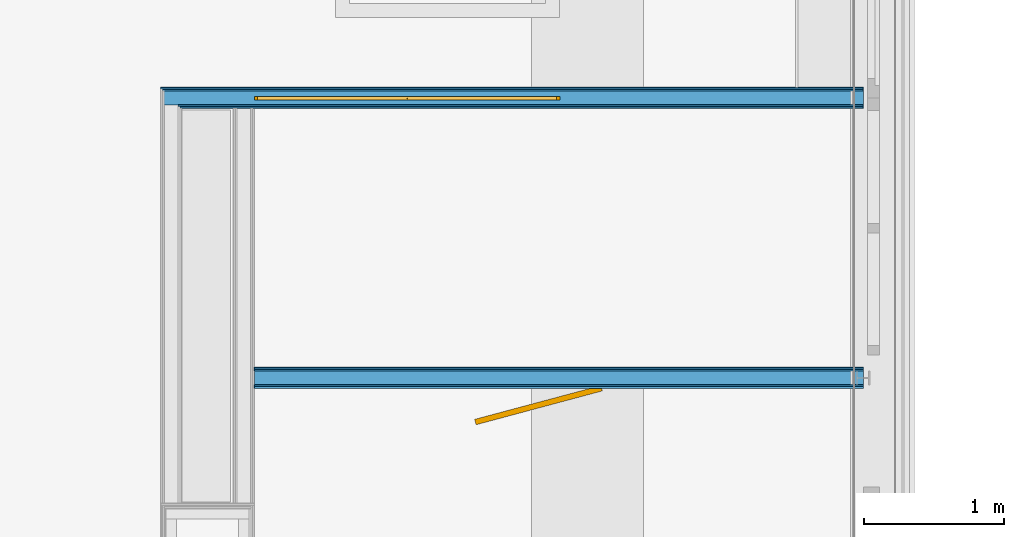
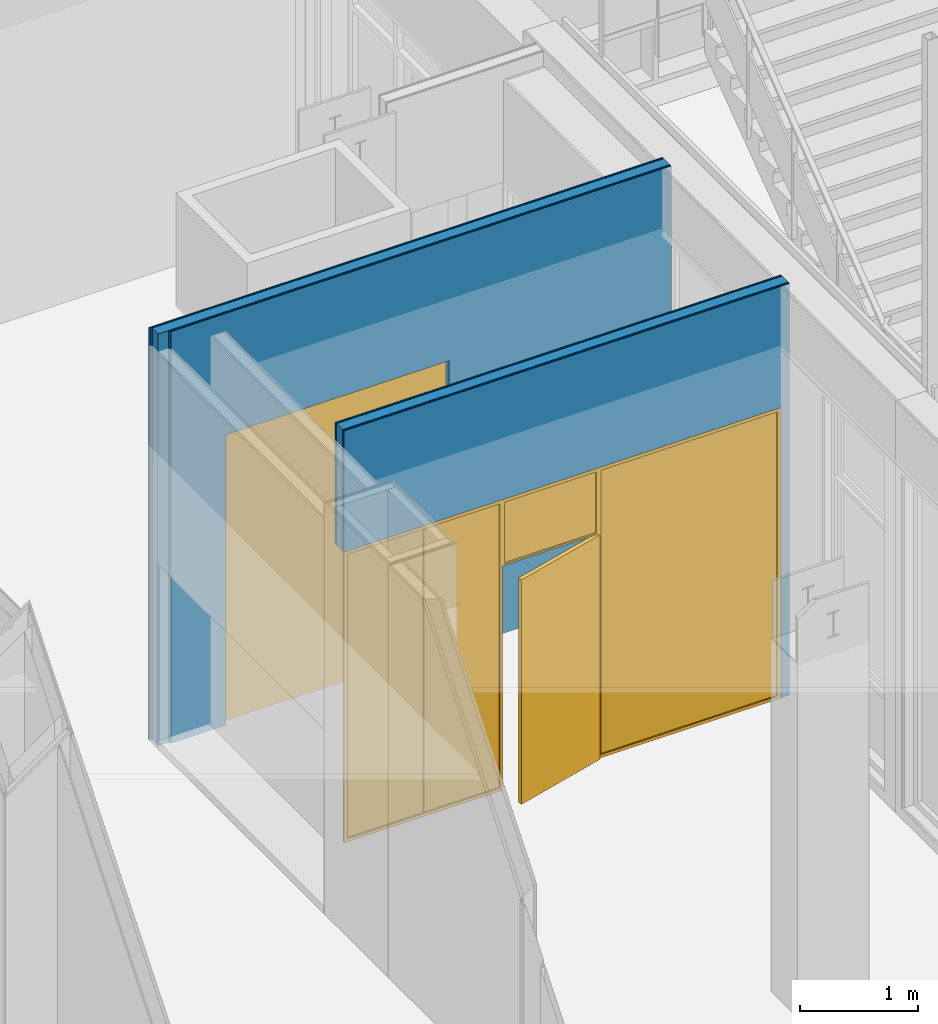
# One storey, part 71 of 94: 10 building element parts, 1 door, 1 window, 2 openings, 2 elements without a shape of their own.
"""IFC2X3 building model written with IfcOpenShell, lengths in millimetres."""

from ifc_helpers import new_model, entity, si_unit, converted_unit, derived_unit, money_unit, direction, frame, origin_with_axes, place, context, subcontext, project, spatial, open_shell, faceted_brep, surface_model, material, type_object, element, fill, aggregate, save


model = new_model("IFC2X3")

# Units and contexts
model_context = context("Model", 3, precision=0.01, world=origin_with_axes(), true_north=direction((0.0, 1.0)))
body_context = subcontext(model_context, "Body", "Model", "MODEL_VIEW")
ifc_project = project(units=[si_unit("LENGTHUNIT", "METRE", prefix="MILLI"), si_unit("AREAUNIT", "SQUARE_METRE"), si_unit("VOLUMEUNIT", "CUBIC_METRE"), converted_unit("PLANEANGLEUNIT", "DEGREE", entity("IfcPlaneAngleMeasure", 0.0174532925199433), si_unit("PLANEANGLEUNIT", "RADIAN"), dimensions=[0, 0, 0, 0, 0, 0, 0]), money_unit("EUR"), converted_unit("TIMEUNIT", "Year", entity("IfcTimeMeasure", 31557600.0), si_unit("TIMEUNIT", "SECOND"), dimensions=[0, 0, 1, 0, 0, 0, 0]), si_unit("MASSUNIT", "GRAM", prefix="KILO"), si_unit("THERMODYNAMICTEMPERATUREUNIT", "DEGREE_CELSIUS"), si_unit("LUMINOUSINTENSITYUNIT", "LUMEN"), si_unit("ENERGYUNIT", "JOULE", prefix="MEGA"), derived_unit("THERMALCONDUCTANCEUNIT", [(si_unit("POWERUNIT", "WATT"), 1), (si_unit("LENGTHUNIT", "METRE"), -1), (si_unit("THERMODYNAMICTEMPERATUREUNIT", "KELVIN"), -1)]), derived_unit("SPECIFICHEATCAPACITYUNIT", [(si_unit("ENERGYUNIT", "JOULE"), 1), (si_unit("MASSUNIT", "GRAM", prefix="KILO"), -1), (si_unit("THERMODYNAMICTEMPERATUREUNIT", "KELVIN"), -1)]), derived_unit("MASSDENSITYUNIT", [(si_unit("MASSUNIT", "GRAM", prefix="KILO"), 1), (si_unit("VOLUMEUNIT", "CUBIC_METRE"), -1)])], contexts=[model_context])

# Site, building, storey
site_placement = place(None, origin_with_axes())
site = spatial("IfcSite", under=ifc_project, at=site_placement, Name="<site naam>", CompositionType="ELEMENT")
building_placement = place(site_placement, origin_with_axes())
building = spatial("IfcBuilding", under=site, at=building_placement, Name="<Naam gebouw>", CompositionType="ELEMENT")
storey_placement = place(building_placement, frame((0.0, 0.0, 4250.0), z_axis=(0.0, 0.0, 1.0), x_axis=(1.0, 0.0, 0.0)))
storey = spatial("IfcBuildingStorey", under=building, at=storey_placement, Name="01 1e verdieping", CompositionType="ELEMENT", Elevation=4250.0)

# Door
door_style = type_object("IfcDoorStyle", Name="D1 bl zl2 27", ConstructionType="NOTDEFINED", OperationType="USERDEFINED", ParameterTakesPrecedence=False, Sizeable=False)
wall_2_placement = place(storey_placement, frame((-529.9999999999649, 4000.000000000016, 0.0), z_axis=(0.0, 0.0, 1.0), x_axis=(1.0, 0.0, 0.0)))
opening_2_placement = place(wall_2_placement, frame((2282.022219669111, 0.0, 0.0), z_axis=(0.0, 0.0, 1.0), x_axis=(1.0, 0.0, 0.0)))
door_placement = place(opening_2_placement, frame((2132.022219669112, 0.0, 0.0), z_axis=(0.0, 0.0, 1.0), x_axis=(-1.0, 0.0, 0.0)))
door = element("IfcDoor", 1, at=door_placement, inside=storey, type_object=door_style, Name="22_BI-F-19_305", ObjectType="DOOR", OverallHeight=3000.0, OverallWidth=4264.04, context=body_context, shape_type="SurfaceModel", body=[
    faceted_brep([(4264.044439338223, 74.99999999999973, 0.0), (4264.044439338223, 54.99999999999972, 0.0), (4231.044439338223, 54.99999999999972, 0.0), (4231.044439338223, 74.99999999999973, 0.0), (4264.044439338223, 74.99999999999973, 2967.0), (4264.044439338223, 54.99999999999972, 2967.0), (4231.044439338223, 54.99999999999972, 2967.0), (4231.044439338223, 54.99999999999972, 33.00000000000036), (4231.044439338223, 74.99999999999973, 33.00000000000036), (4231.044439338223, 74.99999999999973, 2967.0)], [[[0, 1, 2, 3]], [[4, 5, 1, 0]], [[1, 5, 6, 7, 2]], [[3, 2, 7, 8]], [[0, 3, 8, 9, 4]], [[9, 6, 5, 4]], [[8, 7, 6, 9]]]),
    faceted_brep([(2716.999999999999, 55.00000000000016, 0.0), (2741.999999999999, 55.00000000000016, 0.0), (2741.999999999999, 55.00000000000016, 32.99999999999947), (2741.999999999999, 54.99999999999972, 2967.0), (2699.999999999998, 54.99999999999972, 2967.0), (2699.999999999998, 55.00000000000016, 2333.0), (2699.999999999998, 55.00000000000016, 2317.0), (2716.999999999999, 55.00000000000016, 2317.0), (2716.999999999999, 75.00000000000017, 0.0), (2741.999999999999, 75.00000000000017, 0.0), (2741.999999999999, 75.00000000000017, 32.99999999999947), (2741.999999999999, 74.99999999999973, 2967.0), (2699.999999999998, 74.99999999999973, 2967.0), (2699.999999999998, 75.00000000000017, 2333.0), (2699.999999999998, 75.00000000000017, 2317.0), (2716.999999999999, 75.00000000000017, 2317.0)], [[[0, 1, 2, 3, 4, 5, 6, 7]], [[8, 9, 1, 0]], [[9, 10, 2, 1]], [[10, 11, 3, 2]], [[11, 12, 4, 3]], [[12, 13, 5, 4]], [[6, 5, 13, 14]], [[14, 15, 7, 6]], [[7, 15, 8, 0]], [[15, 14, 13, 12, 11, 10, 9, 8]]]),
    faceted_brep([(4231.044439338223, 74.99999999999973, 33.00000000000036), (4231.044439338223, 54.99999999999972, 33.00000000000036), (4231.044439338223, 54.99999999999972, 0.0), (4231.044439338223, 74.99999999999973, 0.0), (2741.999999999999, 75.00000000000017, 33.00000000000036), (2741.999999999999, 55.00000000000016, 33.00000000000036), (2741.999999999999, 55.00000000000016, 0.0), (2741.999999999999, 75.00000000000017, 0.0)], [[[0, 1, 2, 3]], [[4, 5, 1, 0]], [[1, 5, 6, 2]], [[3, 2, 6, 7]], [[0, 3, 7, 4]], [[7, 6, 5, 4]]]),
    faceted_brep([(0.0, 75.00000000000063, 0.0), (0.0, 55.0000000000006, 0.0), (0.0, 55.00000000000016, 2967.0), (0.0, 75.00000000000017, 2967.0), (32.99999999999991, 75.00000000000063, 0.0), (32.99999999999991, 55.0000000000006, 0.0), (32.99999999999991, 55.0000000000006, 33.00000000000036), (32.99999999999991, 55.00000000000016, 2967.0), (32.99999999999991, 75.00000000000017, 2967.0), (32.99999999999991, 75.00000000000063, 33.00000000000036)], [[[0, 1, 2, 3]], [[4, 5, 1, 0]], [[1, 5, 6, 7, 2]], [[3, 2, 7, 8]], [[0, 3, 8, 9, 4]], [[9, 6, 5, 4]], [[8, 7, 6, 9]]]),
    faceted_brep([(1783.0, 55.00000000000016, 2317.0), (1800.0, 55.00000000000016, 2317.0), (1800.0, 55.00000000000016, 2333.0), (1800.0, 55.00000000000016, 2967.0), (1758.0, 55.00000000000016, 2967.0), (1758.0, 55.00000000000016, 32.99999999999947), (1758.0, 55.00000000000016, 0.0), (1783.0, 55.00000000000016, 0.0), (1783.0, 75.00000000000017, 2317.0), (1800.0, 75.00000000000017, 2317.0), (1800.0, 75.00000000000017, 2333.0), (1800.0, 75.00000000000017, 2967.0), (1758.0, 75.00000000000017, 2967.0), (1758.0, 75.00000000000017, 32.99999999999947), (1758.0, 75.00000000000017, 0.0), (1783.0, 75.00000000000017, 0.0)], [[[0, 1, 2, 3, 4, 5, 6, 7]], [[0, 8, 9, 1]], [[9, 10, 2, 1]], [[10, 11, 3, 2]], [[11, 12, 4, 3]], [[12, 13, 5, 4]], [[13, 14, 6, 5]], [[7, 6, 14, 15]], [[7, 15, 8, 0]], [[8, 15, 14, 13, 12, 11, 10, 9]]]),
    faceted_brep([(1758.0, 75.00000000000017, 33.00000000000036), (1758.0, 55.00000000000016, 33.00000000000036), (1758.0, 55.00000000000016, 0.0), (1758.0, 75.00000000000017, 0.0), (32.99999999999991, 75.00000000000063, 33.00000000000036), (32.99999999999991, 55.0000000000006, 33.00000000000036), (32.99999999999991, 55.0000000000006, 0.0), (32.99999999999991, 75.00000000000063, 0.0)], [[[0, 1, 2, 3]], [[4, 5, 1, 0]], [[1, 5, 6, 2]], [[3, 2, 6, 7]], [[0, 3, 7, 4]], [[7, 6, 5, 4]]]),
    faceted_brep([(4264.044439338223, 74.99999999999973, 3000.0), (4264.044439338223, 54.99999999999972, 3000.0), (4264.044439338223, 54.99999999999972, 2967.0), (4264.044439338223, 74.99999999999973, 2967.0), (0.0, 75.00000000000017, 3000.0), (0.0, 55.00000000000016, 3000.0), (0.0, 55.00000000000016, 2967.0), (32.99999999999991, 55.00000000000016, 2967.0), (1758.0, 55.00000000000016, 2967.0), (1800.0, 55.00000000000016, 2967.0), (2699.999999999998, 54.99999999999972, 2967.0), (2741.999999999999, 54.99999999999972, 2967.0), (4231.044439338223, 54.99999999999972, 2967.0), (4231.044439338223, 74.99999999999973, 2967.0), (2741.999999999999, 74.99999999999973, 2967.0), (2699.999999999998, 74.99999999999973, 2967.0), (1800.0, 75.00000000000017, 2967.0), (1758.0, 75.00000000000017, 2967.0), (32.99999999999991, 75.00000000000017, 2967.0), (0.0, 75.00000000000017, 2967.0)], [[[0, 1, 2, 3]], [[4, 5, 1, 0]], [[1, 5, 6, 7, 8, 9, 10, 11, 12, 2]], [[3, 2, 12, 13]], [[0, 3, 13, 14, 15, 16, 17, 18, 19, 4]], [[19, 6, 5, 4]], [[18, 7, 6, 19]], [[17, 8, 7, 18]], [[16, 9, 8, 17]], [[15, 10, 9, 16]], [[14, 11, 10, 15]], [[13, 12, 11, 14]]]),
    faceted_brep([(2699.999999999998, 55.00000000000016, 2317.0), (2699.999999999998, 55.00000000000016, 2333.0), (1800.0, 55.00000000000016, 2333.0), (1800.0, 55.00000000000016, 2317.0), (2699.999999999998, 75.00000000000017, 2317.0), (2699.999999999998, 75.00000000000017, 2333.0), (1800.0, 75.00000000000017, 2333.0), (1800.0, 75.00000000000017, 2317.0)], [[[0, 1, 2, 3]], [[4, 5, 1, 0]], [[5, 6, 2, 1]], [[3, 2, 6, 7]], [[7, 4, 0, 3]], [[7, 6, 5, 4]]]),
    faceted_brep([(1778.341257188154, 92.38666487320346, 0.0), (2680.515978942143, 334.1236529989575, 0.0), (2690.868740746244, 295.4866199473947, 0.0), (1788.694018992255, 53.74963182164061, 0.0), (1778.341257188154, 92.38666487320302, 2317.0), (2680.515978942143, 334.1236529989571, 2317.0), (2690.868740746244, 295.4866199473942, 2317.0), (1788.694018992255, 53.74963182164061, 2317.0)], [[[0, 1, 2, 3]], [[0, 4, 5, 1]], [[1, 5, 6, 2]], [[3, 2, 6, 7]], [[4, 0, 3, 7]], [[5, 4, 7, 6]]]),
    surface_model("IfcShellBasedSurfaceModel", [(2699.999999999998, 48.99999999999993, 2333.0), (2699.999999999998, 48.99999999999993, 2967.0), (1800.0, 48.99999999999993, 2967.0), (1800.0, 48.99999999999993, 2333.0)], [open_shell([[[0, 1, 2, 3]]])]),
    surface_model("IfcShellBasedSurfaceModel", [(2699.999999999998, 60.99999999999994, 2333.0), (1800.0, 60.99999999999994, 2333.0), (1800.0, 60.99999999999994, 2967.0), (2699.999999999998, 60.99999999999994, 2967.0)], [open_shell([[[0, 1, 2, 3]]])]),
    surface_model("IfcShellBasedSurfaceModel", [(3489.022219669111, 48.99999999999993, 33.00000000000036), (4231.044439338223, 48.99999999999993, 33.00000000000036), (4231.044439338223, 48.99999999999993, 2967.0), (3489.022219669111, 48.99999999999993, 2967.0)], [open_shell([[[0, 1, 2, 3]]])]),
    surface_model("IfcShellBasedSurfaceModel", [(3489.022219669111, 60.99999999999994, 33.00000000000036), (3489.022219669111, 60.99999999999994, 2967.0), (4231.044439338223, 60.99999999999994, 2967.0), (4231.044439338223, 60.99999999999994, 33.00000000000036)], [open_shell([[[0, 1, 2, 3]]])]),
    surface_model("IfcShellBasedSurfaceModel", [(2741.999999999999, 48.99999999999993, 33.00000000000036), (3484.022219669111, 48.99999999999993, 33.00000000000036), (3484.022219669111, 48.99999999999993, 2967.0), (2741.999999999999, 48.99999999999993, 2967.0)], [open_shell([[[0, 1, 2, 3]]])]),
    surface_model("IfcShellBasedSurfaceModel", [(2741.999999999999, 60.99999999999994, 33.00000000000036), (2741.999999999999, 60.99999999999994, 2967.0), (3484.022219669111, 60.99999999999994, 2967.0), (3484.022219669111, 60.99999999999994, 33.00000000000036)], [open_shell([[[0, 1, 2, 3]]])]),
    faceted_brep([(3489.022219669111, 69.99999999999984, 33.00000000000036), (3484.022219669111, 69.99999999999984, 33.00000000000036), (3484.022219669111, 75.00000000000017, 33.00000000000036), (3489.022219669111, 75.00000000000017, 33.00000000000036), (3489.022219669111, 69.99999999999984, 2967.0), (3484.022219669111, 69.99999999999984, 2967.0), (3484.022219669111, 74.99999999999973, 2967.0), (3489.022219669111, 74.99999999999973, 2967.0)], [[[0, 1, 2, 3]], [[0, 4, 5, 1]], [[1, 5, 6, 2]], [[3, 2, 6, 7]], [[4, 0, 3, 7]], [[5, 4, 7, 6]]]),
    surface_model("IfcShellBasedSurfaceModel", [(1758.0, 49.00000000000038, 33.00000000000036), (1758.0, 48.99999999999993, 2967.0), (33.00000000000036, 49.00000000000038, 2967.0), (33.00000000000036, 49.00000000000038, 33.00000000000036)], [open_shell([[[0, 1, 2, 3]]])]),
    surface_model("IfcShellBasedSurfaceModel", [(1758.0, 61.00000000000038, 33.00000000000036), (33.00000000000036, 61.00000000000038, 33.00000000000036), (33.00000000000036, 61.00000000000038, 2967.0), (1758.0, 60.99999999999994, 2967.0)], [open_shell([[[0, 1, 2, 3]]])]),
    faceted_brep([(897.9999999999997, 52.50000000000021, 33.00000000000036), (892.9999999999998, 52.50000000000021, 33.00000000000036), (892.9999999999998, 57.50000000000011, 33.00000000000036), (897.9999999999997, 57.50000000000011, 33.00000000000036), (897.9999999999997, 52.50000000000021, 2967.0), (892.9999999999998, 52.50000000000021, 2967.0), (892.9999999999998, 57.50000000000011, 2967.0), (897.9999999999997, 57.50000000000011, 2967.0)], [[[0, 1, 2, 3]], [[0, 4, 5, 1]], [[1, 5, 6, 2]], [[3, 2, 6, 7]], [[4, 0, 3, 7]], [[5, 4, 7, 6]]]),
])

# Window
window_style = type_object("IfcWindowStyle", Name="R1 27", ConstructionType="NOTDEFINED", OperationType="SINGLE_PANEL", ParameterTakesPrecedence=False, Sizeable=False)
wall_1_placement = place(storey_placement, frame((3970.044465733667, 6000.000000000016, 0.0), z_axis=(0.0, 0.0, 1.0), x_axis=(-1.0, 0.0, 0.0)))
opening_1_placement = place(wall_1_placement, frame((3258.486799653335, 0.0, 0.0), z_axis=(0.0, 0.0, 1.0), x_axis=(1.0, 0.0, 0.0)))
window_placement = place(opening_1_placement, frame((-1091.557666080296, 0.0, 0.0), z_axis=(0.0, 0.0, 1.0), x_axis=(1.0, 0.0, 0.0)))
window = element("IfcWindow", 2, at=window_placement, inside=storey, type_object=window_style, Name="22_BI-F-10_305", ObjectType="WINDOW", OverallHeight=3000.0, OverallWidth=2183.11, context=body_context, shape_type="SurfaceModel", body=[
    faceted_brep([(24.00000000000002, -9.999999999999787, 2976.0), (24.00000000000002, 14.00000000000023, 2976.0), (0.0, 14.00000000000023, 2976.0), (0.0, -9.999999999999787, 2976.0), (24.00000000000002, -9.999999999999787, 24.00000000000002), (24.00000000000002, 14.00000000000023, 24.00000000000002), (0.0, 14.00000000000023, 24.00000000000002), (0.0, -9.999999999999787, 24.00000000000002)], [[[0, 1, 2, 3]], [[4, 5, 1, 0]], [[1, 5, 6, 2]], [[3, 2, 6, 7]], [[0, 3, 7, 4]], [[7, 6, 5, 4]]]),
    faceted_brep([(2159.115332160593, -9.999999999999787, 24.00000000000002), (2159.115332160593, 14.00000000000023, 24.00000000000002), (2183.115332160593, 14.00000000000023, 24.00000000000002), (2183.115332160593, -9.999999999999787, 24.00000000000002), (2159.115332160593, -9.999999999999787, 2976.0), (2159.115332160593, 14.00000000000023, 2976.0), (2183.115332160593, 14.00000000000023, 2976.0), (2183.115332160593, -9.999999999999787, 2976.0)], [[[0, 1, 2, 3]], [[4, 5, 1, 0]], [[1, 5, 6, 2]], [[3, 2, 6, 7]], [[0, 3, 7, 4]], [[7, 6, 5, 4]]]),
    faceted_brep([(24.00000000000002, -9.999999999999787, 24.00000000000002), (24.00000000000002, 14.00000000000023, 24.00000000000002), (0.0, 14.00000000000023, 24.00000000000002), (0.0, -9.999999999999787, 24.00000000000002), (2159.115332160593, -9.999999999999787, 24.00000000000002), (2159.115332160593, 14.00000000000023, 24.00000000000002), (2183.115332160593, 14.00000000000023, 24.00000000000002), (2183.115332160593, 14.00000000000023, 0.0), (0.0, 14.00000000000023, 0.0), (0.0, -9.999999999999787, 0.0), (2183.115332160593, -9.999999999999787, 0.0), (2183.115332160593, -9.999999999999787, 24.00000000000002)], [[[0, 1, 2, 3]], [[4, 5, 1, 0]], [[1, 5, 6, 7, 8, 2]], [[3, 2, 8, 9]], [[0, 3, 9, 10, 11, 4]], [[11, 6, 5, 4]], [[10, 7, 6, 11]], [[9, 8, 7, 10]]]),
    faceted_brep([(2159.115332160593, -9.999999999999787, 2976.0), (2159.115332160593, 14.00000000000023, 2976.0), (2183.115332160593, 14.00000000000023, 2976.0), (2183.115332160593, -9.999999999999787, 2976.0), (24.00000000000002, -9.999999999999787, 2976.0), (24.00000000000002, 14.00000000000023, 2976.0), (0.0, 14.00000000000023, 2976.0), (0.0, 14.00000000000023, 3000.0), (2183.115332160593, 14.00000000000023, 3000.0), (2183.115332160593, -9.999999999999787, 3000.0), (0.0, -9.999999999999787, 3000.0), (0.0, -9.999999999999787, 2976.0)], [[[0, 1, 2, 3]], [[4, 5, 1, 0]], [[1, 5, 6, 7, 8, 2]], [[3, 2, 8, 9]], [[0, 3, 9, 10, 11, 4]], [[11, 6, 5, 4]], [[10, 7, 6, 11]], [[9, 8, 7, 10]]]),
    surface_model("IfcShellBasedSurfaceModel", [(24.00000000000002, -5.999999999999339, 24.00000000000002), (2159.115332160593, -6.000000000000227, 24.00000000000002), (2159.115332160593, -6.000000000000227, 2976.0), (24.00000000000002, -6.000000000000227, 2976.0)], [open_shell([[[0, 1, 2, 3]]])]),
    surface_model("IfcShellBasedSurfaceModel", [(24.00000000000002, 14.00000000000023, 24.00000000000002), (24.00000000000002, 14.00000000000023, 2976.0), (2159.115332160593, 14.00000000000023, 2976.0), (2159.115332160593, 14.00000000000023, 24.00000000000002)], [open_shell([[[0, 1, 2, 3]]])]),
    faceted_brep([(1089.057666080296, 1.500000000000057, 24.00000000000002), (1089.057666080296, 6.49999999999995, 24.00000000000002), (1094.057666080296, 6.49999999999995, 24.00000000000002), (1094.057666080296, 1.500000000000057, 24.00000000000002), (1089.057666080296, 1.500000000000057, 2976.0), (1089.057666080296, 6.49999999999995, 2976.0), (1094.057666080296, 6.49999999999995, 2976.0), (1094.057666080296, 1.500000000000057, 2976.0)], [[[0, 1, 2, 3]], [[4, 5, 1, 0]], [[1, 5, 6, 2]], [[3, 2, 6, 7]], [[0, 3, 7, 4]], [[7, 6, 5, 4]]]),
])

# Wall, opening
wall_type = type_object("IfcWallType", Name="MS-01 GF 150 ECO DGS/2.100.2.A 150", PredefinedType="NOTDEFINED")
wall_1 = element("IfcWall", 3, at=wall_1_placement, inside=storey, type_object=wall_type, Name="22_Binnenwand_MS-01")
opening_1 = element("IfcOpeningElement", 4, at=opening_1_placement, cuts=wall_1, Name="22_BI-F-10_305", context=body_context, shape_type="Brep", body=[
    faceted_brep([(1091.557666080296, -9.999999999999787, 0.0), (1091.557666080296, -9.999999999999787, 3000.0), (1091.557666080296, -76.00000000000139, 3000.0), (1091.557666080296, -76.00000000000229, 0.0), (1091.557666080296, 76.00000000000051, 0.0), (1091.557666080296, 76.00000000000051, 3000.0), (-1091.557666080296, -9.999999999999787, 3000.0), (-1091.557666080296, -76.00000000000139, 3000.0), (-1091.557666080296, 76.00000000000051, 3000.0), (-1091.557666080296, -76.00000000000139, 0.0), (-1091.557666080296, -9.999999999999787, 0.0), (-1091.557666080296, 76.00000000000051, 0.0)], [[[0, 1, 2, 3]], [[1, 0, 4, 5]], [[6, 7, 2, 1, 5, 8]], [[7, 9, 3, 2]], [[0, 3, 9, 10, 11, 4]], [[5, 4, 11, 8]], [[6, 10, 9, 7]], [[10, 6, 8, 11]]]),
])

fill(opening_1, window)

# Building element part
ifc_material_1 = material(Name="gipsplaat")
building_element_part_1_placement = place(wall_1_placement, origin_with_axes())
building_element_part_1 = element("IfcBuildingElementPart", 5, at=building_element_part_1_placement, material=ifc_material_1, Name="gipsplaat", context=body_context, shape_type="Brep", body=[
    faceted_brep([(4895.04446573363, 49.99999999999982, 0.0), (4895.04446573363, 49.99999999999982, 4250.0), (0.0, 50.00000000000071, 4250.0), (0.0, 49.99999999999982, 0.0), (4895.04446573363, 62.5, 4250.0), (4895.04446573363, 62.5, 0.0), (0.0, 62.5, 4250.0), (0.0, 62.5, 0.0)], [[[0, 1, 2, 3]], [[4, 1, 0, 5]], [[1, 4, 6, 2]], [[2, 6, 7, 3]], [[5, 0, 3, 7]], [[4, 5, 7, 6]]]),
])

ifc_material_2 = material(Name="isolatie_steenwol LSW")
building_element_part_2_placement = place(wall_1_placement, origin_with_axes())
building_element_part_2 = element("IfcBuildingElementPart", 6, at=building_element_part_2_placement, material=ifc_material_2, Name="isolatie_steenwol LSW", context=body_context, shape_type="Brep", body=[
    faceted_brep([(4995.044465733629, -50.00000000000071, 0.0), (4995.044465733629, -49.99999999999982, 4250.0), (0.0, -49.99999999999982, 4250.0), (0.0, -49.99999999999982, 0.0), (4995.044465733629, 49.99999999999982, 4250.0), (4995.044465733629, 49.99999999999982, 0.0), (0.0, 50.00000000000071, 4250.0), (0.0, 49.99999999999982, 0.0)], [[[0, 1, 2, 3]], [[4, 1, 0, 5]], [[1, 4, 6, 2]], [[2, 6, 7, 3]], [[5, 0, 3, 7]], [[4, 5, 7, 6]]]),
])

building_element_part_3_placement = place(wall_1_placement, origin_with_axes())
building_element_part_3 = element("IfcBuildingElementPart", 7, at=building_element_part_3_placement, material=ifc_material_1, Name="gipsplaat", context=body_context, shape_type="Brep", body=[
    faceted_brep([(4882.544465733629, 62.5, 0.0), (4882.544465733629, 62.5, 4250.0), (0.0, 62.5, 4250.0), (0.0, 62.5, 0.0), (4882.544465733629, 75.00000000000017, 4250.0), (4882.544465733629, 74.99999999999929, 0.0), (0.0, 75.00000000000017, 4250.0), (0.0, 75.00000000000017, 0.0)], [[[0, 1, 2, 3]], [[4, 1, 0, 5]], [[1, 4, 6, 2]], [[2, 6, 7, 3]], [[5, 0, 3, 7]], [[4, 5, 7, 6]]]),
])

building_element_part_4_placement = place(wall_1_placement, origin_with_axes())
building_element_part_4 = element("IfcBuildingElementPart", 8, at=building_element_part_4_placement, material=ifc_material_1, Name="gipsplaat", context=body_context, shape_type="Brep", body=[
    faceted_brep([(5007.544465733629, -62.5, 0.0), (5007.544465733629, -62.5, 4250.0), (0.0, -62.5, 4250.0), (0.0, -62.5, 0.0), (5007.544465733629, -49.99999999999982, 4250.0), (5007.544465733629, -50.00000000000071, 0.0), (0.0, -49.99999999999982, 4250.0), (0.0, -49.99999999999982, 0.0)], [[[0, 1, 2, 3]], [[4, 1, 0, 5]], [[1, 4, 6, 2]], [[2, 6, 7, 3]], [[5, 0, 3, 7]], [[4, 5, 7, 6]]]),
])

building_element_part_5_placement = place(wall_1_placement, origin_with_axes())
building_element_part_5 = element("IfcBuildingElementPart", 9, at=building_element_part_5_placement, material=ifc_material_1, Name="gipsplaat", context=body_context, shape_type="Brep", body=[
    faceted_brep([(5020.04446573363, -75.00000000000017, 0.0), (5020.04446573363, -75.00000000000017, 4250.0), (0.0, -74.99999999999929, 4250.0), (0.0, -75.00000000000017, 0.0), (5020.04446573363, -62.5, 4250.0), (5020.04446573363, -62.5, 0.0), (0.0, -62.5, 4250.0), (0.0, -62.5, 0.0)], [[[0, 1, 2, 3]], [[4, 1, 0, 5]], [[1, 4, 6, 2]], [[6, 7, 3, 2]], [[5, 0, 3, 7]], [[4, 5, 7, 6]]]),
])

aggregate(wall_1, [building_element_part_1, building_element_part_2, building_element_part_3, building_element_part_4, building_element_part_5])

# Wall, opening
wall_2 = element("IfcWall", 10, at=wall_2_placement, inside=storey, type_object=wall_type, Name="22_Binnenwand_MS-01")
opening_2 = element("IfcOpeningElement", 11, at=opening_2_placement, cuts=wall_2, Name="22_BI-F-19_305", context=body_context, shape_type="Brep", body=[
    faceted_brep([(2132.022219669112, 76.00000000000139, 3000.0), (2132.022219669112, 76.00000000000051, 0.0), (-2132.022219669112, 76.00000000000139, 0.0), (-2132.022219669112, 76.00000000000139, 3000.0), (2132.022219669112, -76.00000000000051, 3000.0), (2132.022219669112, -76.00000000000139, 0.0), (-2132.022219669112, -76.00000000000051, 0.0), (-2132.022219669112, -76.00000000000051, 3000.0)], [[[0, 1, 2, 3]], [[4, 5, 1, 0]], [[5, 6, 2, 1]], [[6, 7, 3, 2]], [[7, 4, 0, 3]], [[6, 5, 4, 7]]]),
])

fill(opening_2, door)

# Building element part
building_element_part_6_placement = place(wall_2_placement, origin_with_axes())
building_element_part_6 = element("IfcBuildingElementPart", 12, at=building_element_part_6_placement, material=ifc_material_1, Name="gipsplaat", context=body_context, shape_type="Brep", body=[
    faceted_brep([(4500.044465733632, 50.00000000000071, 4250.0), (4500.044452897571, 50.00000000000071, 3.000000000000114), (4500.044452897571, 62.5, 3.000000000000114), (4500.044465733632, 62.50000000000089, 4250.0), (150.0000000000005, 50.00000000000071, 4250.0), (149.9999999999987, 49.99999999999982, 3.000000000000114), (149.9999999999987, 62.5, 3.000000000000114), (150.0000000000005, 62.5, 4250.0)], [[[0, 1, 2, 3]], [[4, 5, 1, 0]], [[5, 6, 2, 1]], [[3, 2, 6, 7]], [[7, 4, 0, 3]], [[7, 6, 5, 4]]]),
])

building_element_part_7_placement = place(wall_2_placement, origin_with_axes())
building_element_part_7 = element("IfcBuildingElementPart", 13, at=building_element_part_7_placement, material=ifc_material_2, Name="isolatie_steenwol LSW", context=body_context, shape_type="Brep", body=[
    faceted_brep([(4500.044452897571, -2.500000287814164, 3.000000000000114), (4500.044452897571, -2.500000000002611, 3789.999753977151), (4500.044452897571, 2.499999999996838, 3789.999753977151), (4500.044452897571, 2.500000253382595, 3.000000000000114), (4500.044452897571, 50.00000000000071, 3.000000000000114), (4500.044465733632, 50.00000000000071, 4250.0), (4500.044465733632, -49.99999999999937, 4250.0), (4500.044452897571, -49.99999999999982, 3.000000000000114), (4457.500001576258, -2.500000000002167, 3.000000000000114), (4457.500001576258, -2.500000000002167, 3789.999753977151), (4457.500001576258, -50.00000014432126, 3789.999753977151), (4449.499999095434, -50.00000009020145, 3789.999753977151), (4449.499999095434, 50.00000009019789, 3789.999753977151), (4457.500001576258, 50.00000014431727, 3789.999753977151), (4457.500001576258, 2.499999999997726, 3789.999753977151), (4457.500001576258, 2.499999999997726, 3.000000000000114), (4457.500001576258, 50.00000014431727, 3.000000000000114), (4449.499999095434, 50.00000009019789, 3.000000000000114), (149.9999999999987, 49.99999999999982, 3.000000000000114), (150.0000000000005, 50.00000000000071, 4250.0), (150.0000000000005, -49.99999999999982, 4250.0), (4457.500001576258, -50.00000014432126, 3.000000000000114), (149.9999999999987, -49.99999999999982, 3.000000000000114), (4449.499999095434, -50.00000009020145, 3.000000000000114)], [[[0, 1, 2, 3, 4, 5, 6, 7]], [[1, 0, 8, 9]], [[2, 1, 9, 10, 11, 12, 13, 14]], [[3, 2, 14, 15]], [[15, 16, 4, 3]], [[12, 17, 18, 19, 5, 4, 16, 13]], [[19, 20, 6, 5]], [[10, 21, 7, 6, 20, 22, 23, 11]], [[8, 0, 7, 21]], [[8, 21, 10, 9]], [[17, 12, 11, 23]], [[13, 16, 15, 14]], [[17, 23, 22, 18]], [[19, 18, 22, 20]]]),
])

building_element_part_8_placement = place(wall_2_placement, origin_with_axes())
building_element_part_8 = element("IfcBuildingElementPart", 14, at=building_element_part_8_placement, material=ifc_material_1, Name="gipsplaat", context=body_context, shape_type="Brep", body=[
    faceted_brep([(4500.044452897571, 62.5, 3.000000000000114), (4500.044452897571, 75.00000000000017, 3.000000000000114), (4500.044465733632, 75.00000000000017, 4250.0), (4500.044465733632, 62.50000000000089, 4250.0), (149.9999999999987, 75.00000000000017, 3.000000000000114), (149.9999999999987, 62.5, 3.000000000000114), (150.0000000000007, 75.00000000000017, 4250.0), (150.0000000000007, 62.5, 4250.0)], [[[0, 1, 2, 3]], [[4, 1, 0, 5]], [[1, 4, 6, 2]], [[7, 3, 2, 6]], [[5, 0, 3, 7]], [[4, 5, 7, 6]]]),
])

building_element_part_9_placement = place(wall_2_placement, origin_with_axes())
building_element_part_9 = element("IfcBuildingElementPart", 15, at=building_element_part_9_placement, material=ifc_material_1, Name="gipsplaat", context=body_context, shape_type="Brep", body=[
    faceted_brep([(4500.044465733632, -62.49999999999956, 4250.0), (4500.044452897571, -62.49999999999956, 3.000000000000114), (4500.044452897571, -49.99999999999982, 3.000000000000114), (4500.044465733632, -49.99999999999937, 4250.0), (150.0000000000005, -62.49999999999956, 4250.0), (149.9999999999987, -62.5, 3.000000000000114), (149.9999999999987, -49.99999999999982, 3.000000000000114), (150.0000000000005, -49.99999999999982, 4250.0)], [[[0, 1, 2, 3]], [[4, 5, 1, 0]], [[5, 6, 2, 1]], [[3, 2, 6, 7]], [[7, 4, 0, 3]], [[7, 6, 5, 4]]]),
])

building_element_part_10_placement = place(wall_2_placement, origin_with_axes())
building_element_part_10 = element("IfcBuildingElementPart", 16, at=building_element_part_10_placement, material=ifc_material_1, Name="gipsplaat", context=body_context, shape_type="Brep", body=[
    faceted_brep([(4500.044452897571, -74.99999999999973, 3.000000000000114), (4500.044452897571, -62.49999999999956, 3.000000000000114), (4500.044465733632, -62.49999999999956, 4250.0), (4500.044465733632, -74.99999999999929, 4250.0), (149.9999999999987, -62.5, 3.000000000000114), (149.9999999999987, -75.00000000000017, 3.000000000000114), (150.0000000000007, -62.49999999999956, 4250.0), (150.0000000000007, -74.99999999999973, 4250.0)], [[[0, 1, 2, 3]], [[4, 1, 0, 5]], [[1, 4, 6, 2]], [[7, 3, 2, 6]], [[5, 0, 3, 7]], [[4, 5, 7, 6]]]),
])

aggregate(wall_2, [building_element_part_6, building_element_part_7, building_element_part_8, building_element_part_9, building_element_part_10])

save(model, "model.ifc")
